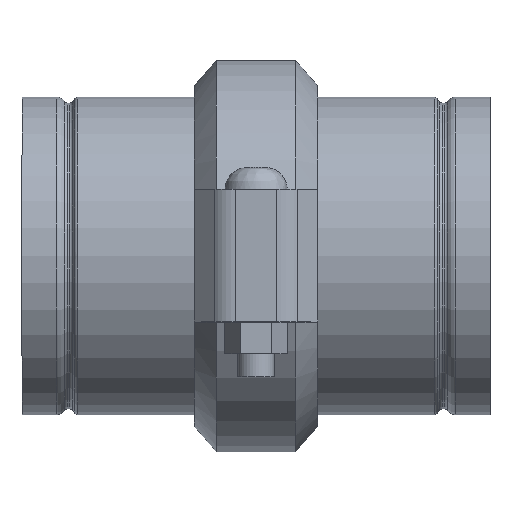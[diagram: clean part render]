
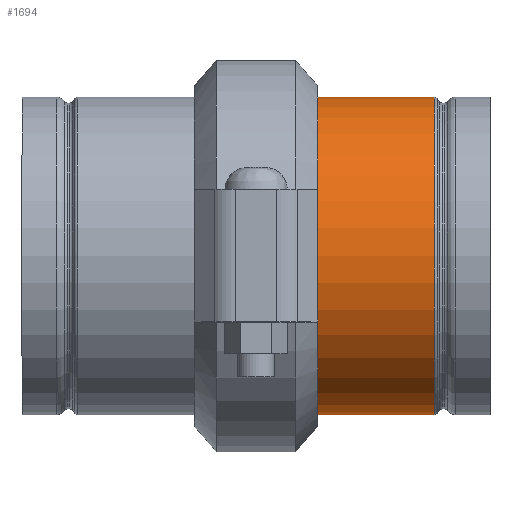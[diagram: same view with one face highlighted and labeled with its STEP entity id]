
A CAD part, top view. The second image highlights one B-rep face of the part: STEP entity #1694.
In plain terms, the highlighted cylindrical face has radius 69.85 mm (diameter 139.7 mm), a full revolution.
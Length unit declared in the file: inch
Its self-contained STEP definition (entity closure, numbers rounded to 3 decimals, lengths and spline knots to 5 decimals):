
#51=LINE('',#2776,#144);
#144=VECTOR('',#2231,2.75);
#237=CYLINDRICAL_SURFACE('',#1917,2.75);
#335=FACE_OUTER_BOUND('',#430,.T.);
#430=EDGE_LOOP('',(#1178,#1179,#1180,#1181,#1182,#1183,#1184,#1185));
#567=CIRCLE('',#1913,2.75);
#568=CIRCLE('',#1914,2.75);
#570=CIRCLE('',#1916,2.75);
#571=CIRCLE('',#1918,2.75);
#572=CIRCLE('',#1919,2.75);
#573=CIRCLE('',#1920,2.75);
#704=VERTEX_POINT('',#2763);
#705=VERTEX_POINT('',#2764);
#706=VERTEX_POINT('',#2766);
#707=VERTEX_POINT('',#2771);
#708=VERTEX_POINT('',#2772);
#709=VERTEX_POINT('',#2774);
#887=EDGE_CURVE('',#704,#705,#567,.T.);
#888=EDGE_CURVE('',#705,#706,#568,.T.);
#890=EDGE_CURVE('',#706,#704,#570,.T.);
#891=EDGE_CURVE('',#707,#708,#571,.T.);
#892=EDGE_CURVE('',#709,#707,#572,.T.);
#893=EDGE_CURVE('',#709,#705,#51,.T.);
#894=EDGE_CURVE('',#708,#709,#573,.T.);
#1178=ORIENTED_EDGE('',*,*,#891,.F.);
#1179=ORIENTED_EDGE('',*,*,#892,.F.);
#1180=ORIENTED_EDGE('',*,*,#893,.T.);
#1181=ORIENTED_EDGE('',*,*,#887,.F.);
#1182=ORIENTED_EDGE('',*,*,#890,.F.);
#1183=ORIENTED_EDGE('',*,*,#888,.F.);
#1184=ORIENTED_EDGE('',*,*,#893,.F.);
#1185=ORIENTED_EDGE('',*,*,#894,.F.);
#1694=ADVANCED_FACE('',(#335),#237,.T.);
#1913=AXIS2_PLACEMENT_3D('',#2765,#2217,#2218);
#1914=AXIS2_PLACEMENT_3D('',#2767,#2219,#2220);
#1916=AXIS2_PLACEMENT_3D('',#2769,#2223,#2224);
#1917=AXIS2_PLACEMENT_3D('',#2770,#2225,#2226);
#1918=AXIS2_PLACEMENT_3D('',#2773,#2227,#2228);
#1919=AXIS2_PLACEMENT_3D('',#2775,#2229,#2230);
#1920=AXIS2_PLACEMENT_3D('',#2777,#2232,#2233);
#2217=DIRECTION('center_axis',(-1.,0.,0.));
#2218=DIRECTION('ref_axis',(0.,-1.,0.));
#2219=DIRECTION('center_axis',(-1.,0.,0.));
#2220=DIRECTION('ref_axis',(0.,-1.,0.));
#2223=DIRECTION('center_axis',(-1.,0.,0.));
#2224=DIRECTION('ref_axis',(0.,-1.,0.));
#2225=DIRECTION('center_axis',(1.,0.,0.));
#2226=DIRECTION('ref_axis',(0.,1.,0.));
#2227=DIRECTION('center_axis',(1.,0.,0.));
#2228=DIRECTION('ref_axis',(0.,-1.,0.));
#2229=DIRECTION('center_axis',(1.,0.,0.));
#2230=DIRECTION('ref_axis',(0.,-1.,0.));
#2231=DIRECTION('',(-1.,0.,0.));
#2232=DIRECTION('center_axis',(1.,0.,0.));
#2233=DIRECTION('ref_axis',(0.,-1.,0.));
#2763=CARTESIAN_POINT('',(0.999,2.75,0.));
#2764=CARTESIAN_POINT('',(0.999,-2.75,0.));
#2765=CARTESIAN_POINT('Origin',(0.999,0.,0.));
#2766=CARTESIAN_POINT('',(0.999,0.,2.75));
#2767=CARTESIAN_POINT('Origin',(0.999,0.,0.));
#2769=CARTESIAN_POINT('Origin',(0.999,0.,0.));
#2770=CARTESIAN_POINT('Origin',(2.01879,0.,0.));
#2771=CARTESIAN_POINT('',(3.03734,2.75,0.));
#2772=CARTESIAN_POINT('',(3.03734,0.,2.75));
#2773=CARTESIAN_POINT('Origin',(3.03734,0.,0.));
#2774=CARTESIAN_POINT('',(3.03734,-2.75,0.));
#2775=CARTESIAN_POINT('Origin',(3.03734,0.,0.));
#2776=CARTESIAN_POINT('',(2.01879,-2.75,0.));
#2777=CARTESIAN_POINT('Origin',(3.03734,0.,0.));
